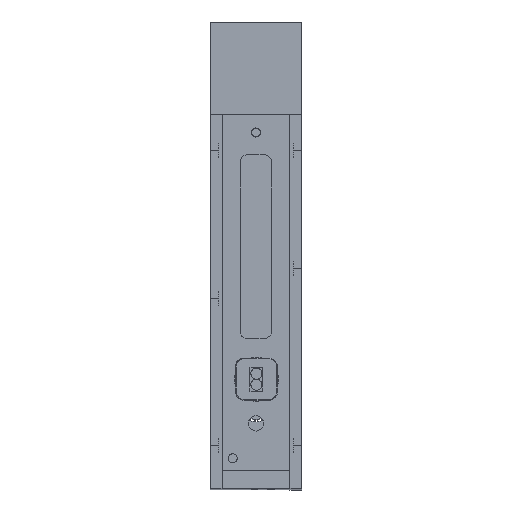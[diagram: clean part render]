
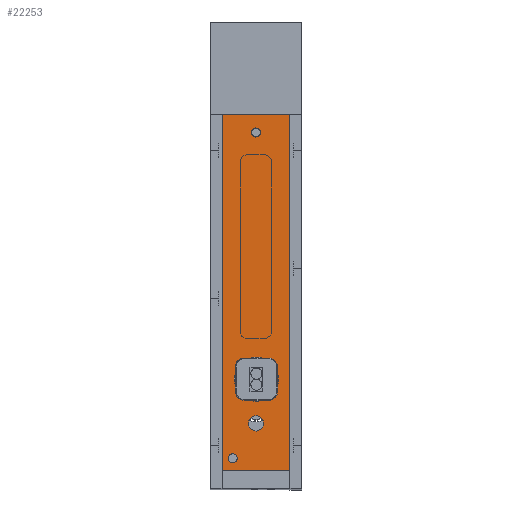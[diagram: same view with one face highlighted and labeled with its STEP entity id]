
A CAD part, top view. The second image highlights one B-rep face of the part: STEP entity #22253.
In plain terms, the highlighted planar face has unit normal (0, 0, 1).
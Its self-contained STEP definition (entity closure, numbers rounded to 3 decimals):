
#27 = CARTESIAN_POINT ( 'NONE',  ( 15.2, 44.627, 6.35 ) ) ;
#129 = CARTESIAN_POINT ( 'NONE',  ( 9.32, 21.047, 6.35 ) ) ;
#374 = VERTEX_POINT ( 'NONE', #10595 ) ;
#449 = VECTOR ( 'NONE', #23537, 1000. ) ;
#770 = VERTEX_POINT ( 'NONE', #18495 ) ;
#1212 = AXIS2_PLACEMENT_3D ( 'NONE', #27090, #16228, #7710 ) ;
#1580 = DIRECTION ( 'NONE',  ( 0., 0., -1. ) ) ;
#1891 = ORIENTED_EDGE ( 'NONE', *, *, #17640, .T. ) ;
#2431 = VERTEX_POINT ( 'NONE', #18514 ) ;
#2752 = CARTESIAN_POINT ( 'NONE',  ( 9.32, -22.373, 6.35 ) ) ;
#2914 = EDGE_CURVE ( 'NONE', #374, #4110, #20680, .T. ) ;
#3040 = VERTEX_POINT ( 'NONE', #25049 ) ;
#3059 = EDGE_CURVE ( 'NONE', #18139, #17152, #14641, .T. ) ;
#3422 = CARTESIAN_POINT ( 'NONE',  ( 18.54, -27.373, 6.35 ) ) ;
#4110 = VERTEX_POINT ( 'NONE', #19661 ) ;
#4603 = EDGE_CURVE ( 'NONE', #14297, #770, #6779, .T. ) ;
#4779 = AXIS2_PLACEMENT_3D ( 'NONE', #10468, #21303, #12730 ) ;
#5399 = ORIENTED_EDGE ( 'NONE', *, *, #8876, .F. ) ;
#5519 = EDGE_CURVE ( 'NONE', #25688, #18100, #16465, .T. ) ;
#5856 = ORIENTED_EDGE ( 'NONE', *, *, #2914, .T. ) ;
#6086 = CARTESIAN_POINT ( 'NONE',  ( 8.091, -22.373, 6.35 ) ) ;
#6740 = DIRECTION ( 'NONE',  ( -1., 0., 0. ) ) ;
#6779 = CIRCLE ( 'NONE', #7402, 6. ) ;
#6819 = CARTESIAN_POINT ( 'NONE',  ( 0.1, -27.373, 6.35 ) ) ;
#6950 = CARTESIAN_POINT ( 'NONE',  ( 9.2, 44.627, 6.35 ) ) ;
#7402 = AXIS2_PLACEMENT_3D ( 'NONE', #6950, #17831, #17637 ) ;
#7707 = FACE_BOUND ( 'NONE', #16819, .T. ) ;
#7710 = DIRECTION ( 'NONE',  ( -1., 0., 0. ) ) ;
#7803 = ORIENTED_EDGE ( 'NONE', *, *, #20574, .T. ) ;
#7905 = DIRECTION ( 'NONE',  ( -1., 0., 0. ) ) ;
#8026 = CARTESIAN_POINT ( 'NONE',  ( 10.55, -22.373, 6.35 ) ) ;
#8076 = VECTOR ( 'NONE', #15601, 1000. ) ;
#8193 = ORIENTED_EDGE ( 'NONE', *, *, #21295, .T. ) ;
#8233 = CARTESIAN_POINT ( 'NONE',  ( 18.54, -27.373, 6.35 ) ) ;
#8876 = EDGE_CURVE ( 'NONE', #2431, #18100, #10227, .T. ) ;
#8913 = ORIENTED_EDGE ( 'NONE', *, *, #25988, .T. ) ;
#9645 = DIRECTION ( 'NONE',  ( -1., 0., 0. ) ) ;
#9817 = AXIS2_PLACEMENT_3D ( 'NONE', #24069, #23976, #23891 ) ;
#10227 = LINE ( 'NONE', #3422, #24040 ) ;
#10468 = CARTESIAN_POINT ( 'NONE',  ( 9.2, 44.627, 6.35 ) ) ;
#10595 = CARTESIAN_POINT ( 'NONE',  ( 7.233, 56.627, 6.35 ) ) ;
#10998 = FACE_OUTER_BOUND ( 'NONE', #21437, .T. ) ;
#11244 = ORIENTED_EDGE ( 'NONE', *, *, #3059, .T. ) ;
#11699 = FACE_BOUND ( 'NONE', #27398, .T. ) ;
#11701 = CARTESIAN_POINT ( 'NONE',  ( 14.445, 66.127, 6.35 ) ) ;
#11752 = DIRECTION ( 'NONE',  ( 1., 0., 0. ) ) ;
#11874 = VERTEX_POINT ( 'NONE', #12598 ) ;
#12316 = CIRCLE ( 'NONE', #9817, 2.067 ) ;
#12598 = CARTESIAN_POINT ( 'NONE',  ( 16.904, 66.127, 6.35 ) ) ;
#12730 = DIRECTION ( 'NONE',  ( 1., 0., 0. ) ) ;
#12869 = PLANE ( 'NONE',  #24849 ) ;
#12936 = EDGE_CURVE ( 'NONE', #25688, #3040, #25142, .T. ) ;
#13340 = EDGE_LOOP ( 'NONE', ( #7803, #5856 ) ) ;
#13445 = CARTESIAN_POINT ( 'NONE',  ( 0.1, 69.467, 6.35 ) ) ;
#13649 = DIRECTION ( 'NONE',  ( 0., 0., -1. ) ) ;
#14126 = DIRECTION ( 'NONE',  ( 0., 0., -1. ) ) ;
#14297 = VERTEX_POINT ( 'NONE', #27 ) ;
#14641 = CIRCLE ( 'NONE', #15074, 1.229 ) ;
#15074 = AXIS2_PLACEMENT_3D ( 'NONE', #25244, #1580, #22921 ) ;
#15446 = CARTESIAN_POINT ( 'NONE',  ( 0.1, 69.467, 6.35 ) ) ;
#15601 = DIRECTION ( 'NONE',  ( 0., -1., 0. ) ) ;
#15727 = CIRCLE ( 'NONE', #4779, 6. ) ;
#16228 = DIRECTION ( 'NONE',  ( 0., 0., -1. ) ) ;
#16465 = LINE ( 'NONE', #13445, #8076 ) ;
#16801 = AXIS2_PLACEMENT_3D ( 'NONE', #2752, #13649, #11752 ) ;
#16819 = EDGE_LOOP ( 'NONE', ( #27288, #20450 ) ) ;
#17152 = VERTEX_POINT ( 'NONE', #8026 ) ;
#17428 = DIRECTION ( 'NONE',  ( 0., 0., -1. ) ) ;
#17451 = CIRCLE ( 'NONE', #16801, 1.229 ) ;
#17637 = DIRECTION ( 'NONE',  ( 1., 0., 0. ) ) ;
#17640 = EDGE_CURVE ( 'NONE', #23370, #11874, #26848, .T. ) ;
#17764 = CARTESIAN_POINT ( 'NONE',  ( 0.1, 69.467, 6.35 ) ) ;
#17831 = DIRECTION ( 'NONE',  ( 0., 0., -1. ) ) ;
#18002 = VECTOR ( 'NONE', #24183, 1000. ) ;
#18100 = VERTEX_POINT ( 'NONE', #6819 ) ;
#18139 = VERTEX_POINT ( 'NONE', #6086 ) ;
#18495 = CARTESIAN_POINT ( 'NONE',  ( 3.2, 44.627, 6.35 ) ) ;
#18514 = CARTESIAN_POINT ( 'NONE',  ( 18.54, -27.373, 6.35 ) ) ;
#19296 = DIRECTION ( 'NONE',  ( 1., 0., 0. ) ) ;
#19389 = DIRECTION ( 'NONE',  ( 0., 0., 1. ) ) ;
#19478 = EDGE_CURVE ( 'NONE', #17152, #18139, #17451, .T. ) ;
#19661 = CARTESIAN_POINT ( 'NONE',  ( 11.367, 56.627, 6.35 ) ) ;
#20450 = ORIENTED_EDGE ( 'NONE', *, *, #4603, .T. ) ;
#20574 = EDGE_CURVE ( 'NONE', #4110, #374, #12316, .T. ) ;
#20680 = CIRCLE ( 'NONE', #1212, 2.067 ) ;
#20788 = CARTESIAN_POINT ( 'NONE',  ( 15.674, 66.127, 6.35 ) ) ;
#21241 = EDGE_CURVE ( 'NONE', #770, #14297, #15727, .T. ) ;
#21290 = ORIENTED_EDGE ( 'NONE', *, *, #19478, .T. ) ;
#21295 = EDGE_CURVE ( 'NONE', #11874, #23370, #24161, .T. ) ;
#21303 = DIRECTION ( 'NONE',  ( 0., 0., -1. ) ) ;
#21437 = EDGE_LOOP ( 'NONE', ( #25438, #5399, #8913, #24141 ) ) ;
#21612 = LINE ( 'NONE', #8233, #449 ) ;
#21793 = FACE_BOUND ( 'NONE', #26775, .T. ) ;
#21854 = CARTESIAN_POINT ( 'NONE',  ( 15.674, 66.127, 6.35 ) ) ;
#22253 = ADVANCED_FACE ( 'NONE', ( #10998, #11699, #27871, #21793, #7707 ), #12869, .T. ) ;
#22921 = DIRECTION ( 'NONE',  ( 1., 0., 0. ) ) ;
#23370 = VERTEX_POINT ( 'NONE', #11701 ) ;
#23537 = DIRECTION ( 'NONE',  ( 0., 1., 0. ) ) ;
#23891 = DIRECTION ( 'NONE',  ( -1., 0., 0. ) ) ;
#23976 = DIRECTION ( 'NONE',  ( 0., 0., -1. ) ) ;
#24040 = VECTOR ( 'NONE', #9645, 1000. ) ;
#24069 = CARTESIAN_POINT ( 'NONE',  ( 9.3, 56.627, 6.35 ) ) ;
#24141 = ORIENTED_EDGE ( 'NONE', *, *, #12936, .F. ) ;
#24161 = CIRCLE ( 'NONE', #25024, 1.229 ) ;
#24183 = DIRECTION ( 'NONE',  ( 1., 0., 0. ) ) ;
#24849 = AXIS2_PLACEMENT_3D ( 'NONE', #129, #19389, #19296 ) ;
#25024 = AXIS2_PLACEMENT_3D ( 'NONE', #21854, #17428, #6740 ) ;
#25049 = CARTESIAN_POINT ( 'NONE',  ( 18.54, 69.467, 6.35 ) ) ;
#25142 = LINE ( 'NONE', #17764, #18002 ) ;
#25244 = CARTESIAN_POINT ( 'NONE',  ( 9.32, -22.373, 6.35 ) ) ;
#25438 = ORIENTED_EDGE ( 'NONE', *, *, #5519, .T. ) ;
#25688 = VERTEX_POINT ( 'NONE', #15446 ) ;
#25988 = EDGE_CURVE ( 'NONE', #2431, #3040, #21612, .T. ) ;
#26411 = AXIS2_PLACEMENT_3D ( 'NONE', #20788, #14126, #7905 ) ;
#26775 = EDGE_LOOP ( 'NONE', ( #8193, #1891 ) ) ;
#26848 = CIRCLE ( 'NONE', #26411, 1.229 ) ;
#27090 = CARTESIAN_POINT ( 'NONE',  ( 9.3, 56.627, 6.35 ) ) ;
#27288 = ORIENTED_EDGE ( 'NONE', *, *, #21241, .T. ) ;
#27398 = EDGE_LOOP ( 'NONE', ( #11244, #21290 ) ) ;
#27871 = FACE_BOUND ( 'NONE', #13340, .T. ) ;
